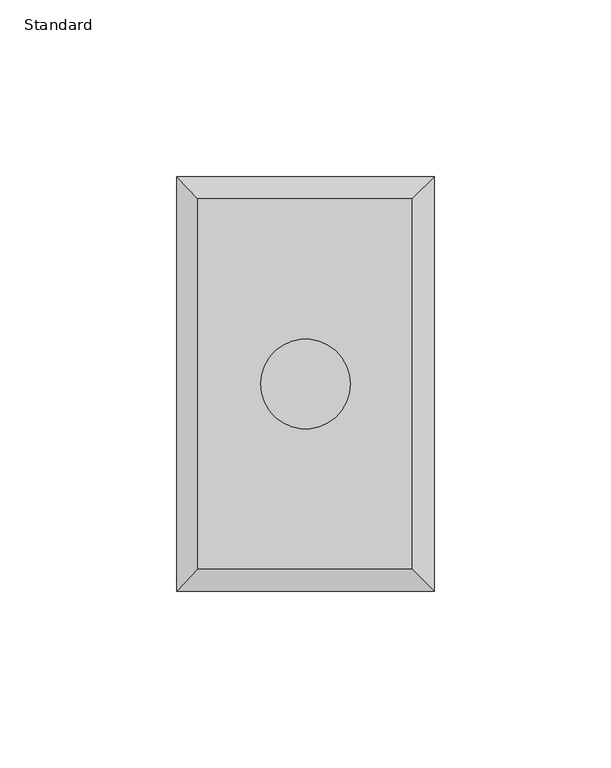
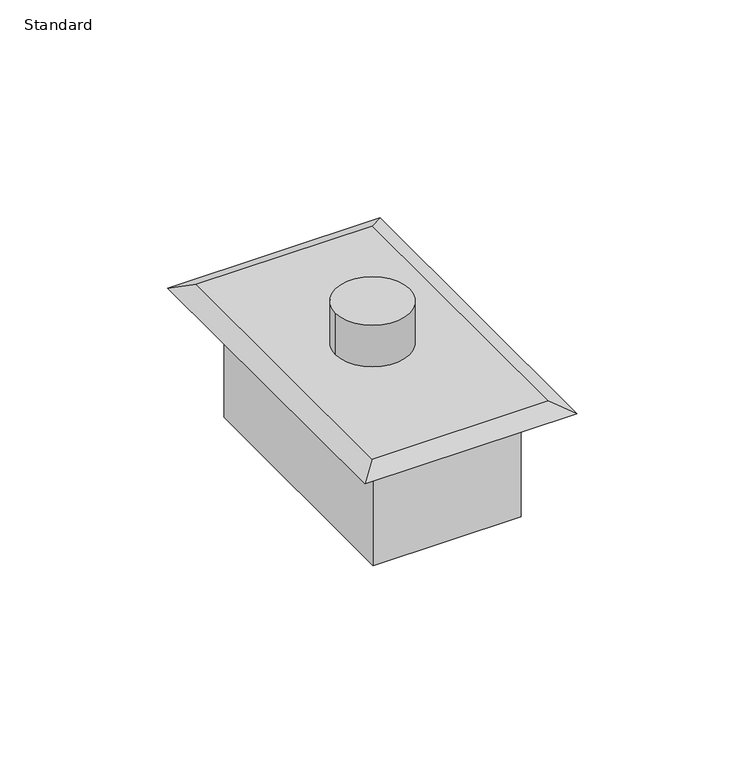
"""IFC4 building model written with IfcOpenShell, lengths in millimetres: proxy geometry, Abort Switch : Standard."""

from ifc_helpers import new_model, si_unit, point, frame, origin, origin_2d, place, context, project, spatial, polyline, circle_curve, trimmed, segment, composite_curve, outline, extrude, faceted_brep, source, transform, mapped, element, save


def standard_ca7b5f8b(model_context):
    return source(origin(), model_context, "Body", "SolidModel", [
        extrude(outline(composite_curve([segment(trimmed(circle_curve(origin_2d(), 12.7), [point((-12.7, 0.0))], [point((12.7, 0.0))], False, "CARTESIAN"), True, "CONTINUOUS"), segment(trimmed(circle_curve(origin_2d(), 12.7), [point((12.7, 0.0))], [point((-12.7, 0.0))], False, "CARTESIAN"), True, "CONTINUOUS")], self_intersect=False)), frame((0.0, 0.0, 3.01625), z_axis=(0.0, 0.0, 1.0), x_axis=(1.0, 0.0, 0.0)), (0.0, 0.0, 1.0), 15.08125),
        faceted_brep([(30.1253793, 52.3875, 3.01625), (-30.4510432, 52.3875, 3.01625), (-30.4510432, -52.3875, 3.01625), (30.1253793, -52.3875, 3.01625), (36.5125, 58.7375, 0.0), (36.5125, -58.7375, 0.0), (-36.5125, -58.7375, 0.0), (-36.5125, 58.7375, 0.0)], [[[0, 1, 2, 3]], [[4, 5, 6, 7]], [[4, 7, 1, 0]], [[7, 6, 2, 1]], [[6, 5, 3, 2]], [[5, 4, 0, 3]]]),
        extrude(outline(polyline([(25.4, 44.45), (25.4, -44.45), (-25.4, -44.45), (-25.4, 44.45), (25.4, 44.45)])), frame((0.0, 0.0, -42.2275), z_axis=(0.0, 0.0, 1.0), x_axis=(1.0, 0.0, 0.0)), (0.0, 0.0, 1.0), 42.2275),
    ])


if __name__ == "__main__":
    model = new_model("IFC4")
    model_context = context("Model", 3, world=origin())
    ifc_project = project(units=[si_unit("LENGTHUNIT", "METRE", prefix="MILLI")], contexts=[model_context])
    site = spatial("IfcSite", under=ifc_project)
    building = spatial("IfcBuilding", under=site)
    placement = place(None, origin())
    standard_shape = standard_ca7b5f8b(model_context)
    element("IfcBuildingElementProxy", 1, Name="Abort Switch : Standard", ObjectType="Abort Switch : Standard", at=placement, inside=building, context=model_context, shape_type="MappedRepresentation", body=[
        mapped(standard_shape, transform((0.0, 0.0, 0.0), x_axis=(1.0, 0.0, 0.0), y_axis=(0.0, 1.0, 0.0), z_axis=(0.0, 0.0, 1.0))),
    ])
    save(model, "model.ifc")
